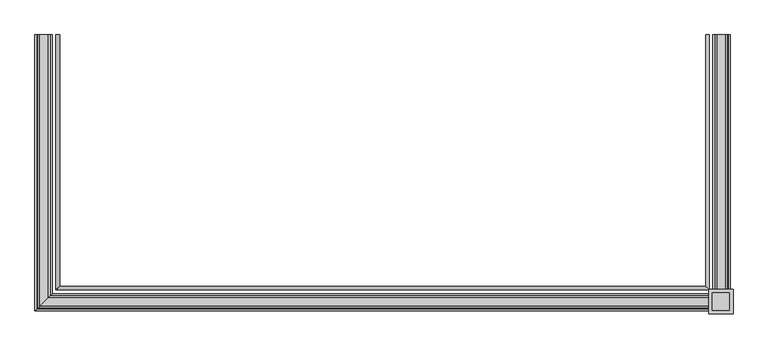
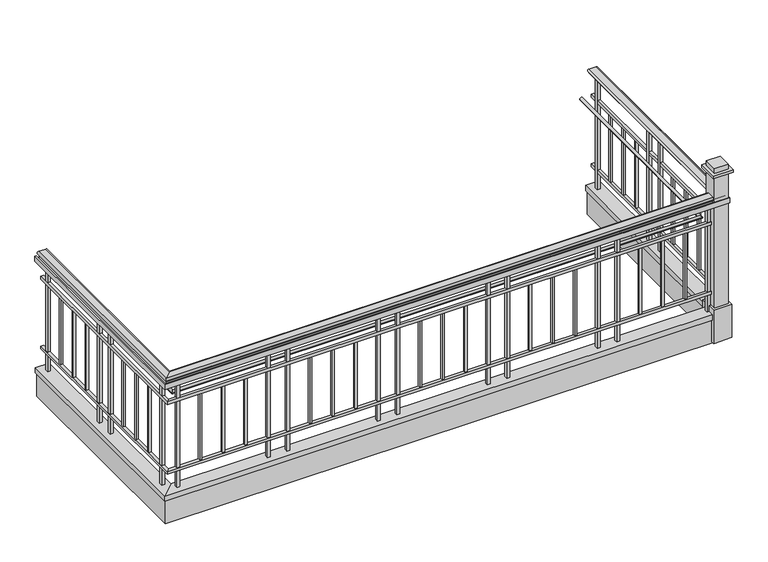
"""IFC4 building model written with IfcOpenShell, lengths in millimetres: railing geometry, Deco Type."""

from ifc_helpers import new_model, si_unit, frame, origin, place, context, project, spatial, polyline, circle_curve, ellipse_curve, outline, extrude, faceted_brep, source, transform, mapped, element, save
from ifc_brep_helpers import plane_surface, cylinder_surface, advanced_brep


def railing_9fa31439(model_context):
    return source(origin(), model_context, "Body", "SolidModel", [
        advanced_brep(
        [(-11325.7002872, -7864.1661799, 1098.55), (-11325.7002872, -7864.1661799, 1076.3248415), (-11325.7002872, -7864.1661799, 1066.8), (-11389.0500398, -7864.1661799, 1066.8), (-11389.0500398, -7864.1661799, 1076.261629), (-11389.0500398, -7864.1661799, 1098.55), (-11325.7002872, -9707.4039273, 1098.55), (-11325.7002872, -9707.4039273, 1076.3248415), (-11325.7002872, -9707.4039273, 1066.8), (-11389.0500398, -9770.7536799, 1066.8), (-11389.0500398, -9770.7536799, 1076.261629), (-11389.0500398, -9770.7536799, 1098.55), (-6640.6872924, -9707.4039273, 1098.55), (-6640.6872924, -9707.4039273, 1076.3248415), (-6640.6872924, -9707.4039273, 1066.8), (-6577.3375398, -9770.7536799, 1066.8), (-6577.3375398, -9770.7536799, 1076.261629), (-6577.3375398, -9770.7536799, 1098.55), (-6640.6872924, -7864.1661799, 1098.55), (-6577.3375398, -7864.1661799, 1098.55), (-6577.3375398, -7864.1661799, 1076.261629), (-6577.3375398, -7864.1661799, 1066.8), (-6640.6872924, -7864.1661799, 1066.8), (-6640.6872924, -7864.1661799, 1076.3248415)],
        [
            (0, 1, circle_curve(frame((-11325.7002872, -7864.1661799, 1087.4374207), z_axis=(0.0, 1.0, 0.0), x_axis=(-1.0, 0.0, 0.0)), 11.1125793)),
            (1, 2),
            (2, 3),
            (3, 4),
            (4, 5, circle_curve(frame((-11389.0500398, -7864.1661799, 1087.4058145), z_axis=(0.0, 1.0, 0.0), x_axis=(-1.0, 0.0, 0.0)), 11.1441855)),
            (5, 0),
            (0, 6),
            (6, 7, ellipse_curve(frame((-11325.7002872, -9707.4039273, 1087.4374207), z_axis=(-0.7071067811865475, 0.7071067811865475, 0.0), x_axis=(0.7071067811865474, 0.7071067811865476, 0.0)), 15.7155603, 11.1125793)),
            (7, 1),
            (7, 8),
            (8, 2),
            (8, 9),
            (9, 3),
            (9, 10),
            (10, 4),
            (10, 11, ellipse_curve(frame((-11389.0500398, -9770.7536799, 1087.4058145), z_axis=(-0.7071067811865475, 0.7071067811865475, 0.0), x_axis=(0.7071067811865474, 0.7071067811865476, 0.0)), 15.7602583, 11.1441855)),
            (11, 5),
            (11, 6),
            (6, 12),
            (12, 13, ellipse_curve(frame((-6640.6872924, -9707.4039273, 1087.4374207), z_axis=(-0.7071067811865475, -0.7071067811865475, 0.0), x_axis=(-0.7071067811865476, 0.7071067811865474, 0.0)), 15.7155603, 11.1125793)),
            (13, 7),
            (13, 14),
            (14, 8),
            (14, 15),
            (15, 9),
            (15, 16),
            (16, 10),
            (16, 17, ellipse_curve(frame((-6577.3375398, -9770.7536799, 1087.4058145), z_axis=(-0.7071067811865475, -0.7071067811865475, 0.0), x_axis=(-0.7071067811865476, 0.7071067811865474, 0.0)), 15.7602583, 11.1441855)),
            (17, 11),
            (17, 12),
            (18, 19),
            (19, 20, circle_curve(frame((-6577.3375398, -7864.1661799, 1087.4058145), z_axis=(0.0, 1.0, 0.0), x_axis=(1.0, 0.0, 0.0)), 11.1441855)),
            (20, 21),
            (21, 22),
            (22, 23),
            (23, 18, circle_curve(frame((-6640.6872924, -7864.1661799, 1087.4374207), z_axis=(0.0, 1.0, 0.0), x_axis=(1.0, 0.0, 0.0)), 11.1125793)),
            (12, 18),
            (23, 13),
            (22, 14),
            (21, 15),
            (20, 16),
            (19, 17),
        ],
        [
            plane_surface(frame((-11357.3000398, -7864.1661799, 1066.8), z_axis=(0.0, 1.0, 0.0), x_axis=(0.0, 0.0, -1.0))),
            cylinder_surface(frame((-11325.7002872, -7864.1661799, 1087.4374207), z_axis=(0.0, 1.0, 0.0), x_axis=(-1.0, 0.0, 0.0)), 11.1125793),
            plane_surface(frame((-11325.7002872, -7864.1661799, 1076.3248415), z_axis=(1.0, 0.0, 0.0), x_axis=(0.0, -1.0, 0.0))),
            plane_surface(frame((-11325.7002872, -7864.1661799, 1066.8), z_axis=(0.0, 0.0, -1.0), x_axis=(0.0, -1.0, 0.0))),
            plane_surface(frame((-11389.0500398, -7864.1661799, 1066.8), z_axis=(-1.0, 0.0, 0.0), x_axis=(0.0, -1.0, 0.0))),
            cylinder_surface(frame((-11389.0500398, -7864.1661799, 1087.4058145), z_axis=(0.0, 1.0, 0.0), x_axis=(-1.0, 0.0, 0.0)), 11.1441855),
            plane_surface(frame((-11389.0500398, -7864.1661799, 1098.55), z_axis=(0.0, 0.0, 1.0), x_axis=(0.0, -1.0, 0.0))),
            cylinder_surface(frame((-11357.3000398, -9707.4039273, 1087.4374207), z_axis=(-1.0, 0.0, 0.0), x_axis=(0.0, -1.0, 0.0)), 11.1125793),
            plane_surface(frame((-11325.7002872, -9707.4039273, 1076.3248415), z_axis=(0.0, 1.0, 0.0), x_axis=(1.0, 0.0, 0.0))),
            plane_surface(frame((-11325.7002872, -9707.4039273, 1066.8), z_axis=(0.0, 0.0, -1.0), x_axis=(1.0, 0.0, 0.0))),
            plane_surface(frame((-11389.0500398, -9770.7536799, 1066.8), z_axis=(0.0, -1.0, 0.0), x_axis=(1.0, 0.0, 0.0))),
            cylinder_surface(frame((-11357.3000398, -9770.7536799, 1087.4058145), z_axis=(-1.0, 0.0, 0.0), x_axis=(0.0, -1.0, 0.0)), 11.1441855),
            plane_surface(frame((-11389.0500398, -9770.7536799, 1098.55), z_axis=(0.0, 0.0, 1.0), x_axis=(1.0, 0.0, 0.0))),
            plane_surface(frame((-6609.0875398, -7864.1661799, 1066.8), z_axis=(0.0, 1.0, 0.0), x_axis=(0.0, 0.0, 1.0))),
            cylinder_surface(frame((-6640.6872924, -9739.0036799, 1087.4374207), z_axis=(0.0, -1.0, 0.0), x_axis=(1.0, 0.0, 0.0)), 11.1125793),
            plane_surface(frame((-6640.6872924, -9707.4039273, 1076.3248415), z_axis=(-1.0, 0.0, 0.0), x_axis=(0.0, 1.0, 0.0))),
            plane_surface(frame((-6640.6872924, -9707.4039273, 1066.8), z_axis=(0.0, 0.0, -1.0), x_axis=(0.0, 1.0, 0.0))),
            plane_surface(frame((-6577.3375398, -9770.7536799, 1066.8), z_axis=(1.0, 0.0, 0.0), x_axis=(0.0, 1.0, 0.0))),
            cylinder_surface(frame((-6577.3375398, -9739.0036799, 1087.4058145), z_axis=(0.0, -1.0, 0.0), x_axis=(1.0, 0.0, 0.0)), 11.1441855),
            plane_surface(frame((-6577.3375398, -9770.7536799, 1098.55), z_axis=(0.0, 0.0, 1.0), x_axis=(0.0, 1.0, 0.0))),
        ],
        [
            (0, [[1, 2, 3, 4, 5, 6]]),
            (1, [[-1, 7, 8, 9]]),
            (2, [[-2, -9, 10, 11]]),
            (3, [[-3, -11, 12, 13]]),
            (4, [[-4, -13, 14, 15]]),
            (5, [[-5, -15, 16, 17]]),
            (6, [[-6, -17, 18, -7]]),
            (7, [[-8, 19, 20, 21]]),
            (8, [[-10, -21, 22, 23]]),
            (9, [[-12, -23, 24, 25]]),
            (10, [[-14, -25, 26, 27]]),
            (11, [[-16, -27, 28, 29]]),
            (12, [[-18, -29, 30, -19]]),
            (13, [[31, 32, 33, 34, 35, 36]]),
            (14, [[-20, 37, -36, 38]]),
            (15, [[-22, -38, -35, 39]]),
            (16, [[-24, -39, -34, 40]]),
            (17, [[-26, -40, -33, 41]]),
            (18, [[-28, -41, -32, 42]]),
            (19, [[-30, -42, -31, -37]]),
        ],
    ),
        faceted_brep([(-11382.7751635, -7864.1661799, 1066.8), (-11370.0751635, -7864.1661799, 1066.8), (-11370.0751635, -7864.1661799, 1022.35), (-11382.7751635, -7864.1661799, 1022.35), (-11382.7751635, -9764.4788036, 1066.8), (-11370.0751635, -9751.7788036, 1066.8), (-11370.0751635, -9751.7788036, 1022.35), (-11382.7751635, -9764.4788036, 1022.35), (-6583.6124161, -9764.4788036, 1066.8), (-6596.3124161, -9751.7788036, 1066.8), (-6596.3124161, -9751.7788036, 1022.35), (-6583.6124161, -9764.4788036, 1022.35), (-6583.6124161, -7864.1661799, 1066.8), (-6583.6124161, -7864.1661799, 1022.35), (-6596.3124161, -7864.1661799, 1022.35), (-6596.3124161, -7864.1661799, 1066.8)], [[[0, 1, 2, 3]], [[1, 0, 4, 5]], [[2, 1, 5, 6]], [[3, 2, 6, 7]], [[0, 3, 7, 4]], [[5, 4, 8, 9]], [[6, 5, 9, 10]], [[7, 6, 10, 11]], [[4, 7, 11, 8]], [[12, 13, 14, 15]], [[9, 8, 12, 15]], [[10, 9, 15, 14]], [[11, 10, 14, 13]], [[8, 11, 13, 12]]]),
        faceted_brep([(-11420.8751635, -7864.1661799, 1066.8), (-11408.1751635, -7864.1661799, 1066.8), (-11408.1751635, -7864.1661799, 1022.35), (-11420.8751635, -7864.1661799, 1022.35), (-11420.8751635, -9802.5788036, 1066.8), (-11408.1751635, -9789.8788036, 1066.8), (-11408.1751635, -9789.8788036, 1022.35), (-11420.8751635, -9802.5788036, 1022.35), (-6545.5124161, -9802.5788036, 1066.8), (-6558.2124161, -9789.8788036, 1066.8), (-6558.2124161, -9789.8788036, 1022.35), (-6545.5124161, -9802.5788036, 1022.35), (-6545.5124161, -7864.1661799, 1066.8), (-6545.5124161, -7864.1661799, 1022.35), (-6558.2124161, -7864.1661799, 1022.35), (-6558.2124161, -7864.1661799, 1066.8)], [[[0, 1, 2, 3]], [[1, 0, 4, 5]], [[2, 1, 5, 6]], [[3, 2, 6, 7]], [[0, 3, 7, 4]], [[5, 4, 8, 9]], [[6, 5, 9, 10]], [[7, 6, 10, 11]], [[4, 7, 11, 8]], [[12, 13, 14, 15]], [[9, 8, 12, 15]], [[10, 9, 15, 14]], [[11, 10, 14, 13]], [[8, 11, 13, 12]]]),
        faceted_brep([(-11370.0000398, -7864.1661799, 863.6), (-11344.6000398, -7864.1661799, 863.6), (-11344.6000398, -7864.1661799, 838.2), (-11370.0000398, -7864.1661799, 838.2), (-11370.0000398, -9751.7036799, 863.6), (-11344.6000398, -9726.3036799, 863.6), (-11344.6000398, -9726.3036799, 838.2), (-11370.0000398, -9751.7036799, 838.2), (-6596.3875398, -9751.7036799, 863.6), (-6621.7875398, -9726.3036799, 863.6), (-6621.7875398, -9726.3036799, 838.2), (-6596.3875398, -9751.7036799, 838.2), (-6596.3875398, -7864.1661799, 863.6), (-6596.3875398, -7864.1661799, 838.2), (-6621.7875398, -7864.1661799, 838.2), (-6621.7875398, -7864.1661799, 863.6)], [[[0, 1, 2, 3]], [[1, 0, 4, 5]], [[2, 1, 5, 6]], [[3, 2, 6, 7]], [[0, 3, 7, 4]], [[5, 4, 8, 9]], [[6, 5, 9, 10]], [[7, 6, 10, 11]], [[4, 7, 11, 8]], [[12, 13, 14, 15]], [[9, 8, 12, 15]], [[10, 9, 15, 14]], [[11, 10, 14, 13]], [[8, 11, 13, 12]]]),
        advanced_brep(
        [(-11247.7625398, -7864.1661799, 850.9), (-11273.1625398, -7864.1661799, 850.9), (-11247.7625398, -9629.4661799, 850.9), (-11273.1625398, -9654.8661799, 850.9), (-6718.6250398, -9629.4661799, 850.9), (-6693.2250398, -9654.8661799, 850.9), (-6718.6250398, -7864.1661799, 850.9), (-6693.2250398, -7864.1661799, 850.9)],
        [
            (0, 1, circle_curve(frame((-11260.4625398, -7864.1661799, 850.9), z_axis=(0.0, 1.0, 0.0), x_axis=(-1.0, 0.0, 0.0)), 12.7)),
            (1, 0, circle_curve(frame((-11260.4625398, -7864.1661799, 850.9), z_axis=(0.0, 1.0, 0.0), x_axis=(-1.0, 0.0, 0.0)), 12.7)),
            (0, 2),
            (2, 3, ellipse_curve(frame((-11260.4625398, -9642.1661799, 850.9), z_axis=(-0.7071067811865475, 0.7071067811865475, 0.0), x_axis=(0.7071067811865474, 0.7071067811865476, 0.0)), 17.9605122, 12.7)),
            (3, 1),
            (3, 2, ellipse_curve(frame((-11260.4625398, -9642.1661799, 850.9), z_axis=(-0.7071067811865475, 0.7071067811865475, 0.0), x_axis=(0.7071067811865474, 0.7071067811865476, 0.0)), 17.9605122, 12.7)),
            (2, 4),
            (4, 5, ellipse_curve(frame((-6705.9250398, -9642.1661799, 850.9), z_axis=(-0.7071067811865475, -0.7071067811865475, 0.0), x_axis=(-0.7071067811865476, 0.7071067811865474, 0.0)), 17.9605122, 12.7)),
            (5, 3),
            (5, 4, ellipse_curve(frame((-6705.9250398, -9642.1661799, 850.9), z_axis=(-0.7071067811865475, -0.7071067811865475, 0.0), x_axis=(-0.7071067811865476, 0.7071067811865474, 0.0)), 17.9605122, 12.7)),
            (6, 7, circle_curve(frame((-6705.9250398, -7864.1661799, 850.9), z_axis=(0.0, 1.0, 0.0), x_axis=(1.0, 0.0, 0.0)), 12.7)),
            (7, 6, circle_curve(frame((-6705.9250398, -7864.1661799, 850.9), z_axis=(0.0, 1.0, 0.0), x_axis=(1.0, 0.0, 0.0)), 12.7)),
            (4, 6),
            (7, 5),
        ],
        [
            plane_surface(frame((-11260.4625398, -7864.1661799, 850.9), z_axis=(0.0, 1.0, 0.0), x_axis=(0.0, 0.0, -1.0))),
            cylinder_surface(frame((-11260.4625398, -7864.1661799, 850.9), z_axis=(0.0, 1.0, 0.0), x_axis=(-1.0, 0.0, 0.0)), 12.7),
            cylinder_surface(frame((-11260.4625398, -9642.1661799, 850.9), z_axis=(-1.0, 0.0, 0.0), x_axis=(0.0, -1.0, 0.0)), 12.7),
            plane_surface(frame((-6705.9250398, -7864.1661799, 850.9), z_axis=(0.0, 1.0, 0.0), x_axis=(0.0, 0.0, 1.0))),
            cylinder_surface(frame((-6705.9250398, -9642.1661799, 850.9), z_axis=(0.0, -1.0, 0.0), x_axis=(1.0, 0.0, 0.0)), 12.7),
        ],
        [
            (0, [[1, 2]]),
            (1, [[-1, 3, 4, 5]]),
            (1, [[-2, -5, 6, -3]]),
            (2, [[-4, 7, 8, 9]]),
            (2, [[-6, -9, 10, -7]]),
            (3, [[11, 12]]),
            (4, [[-8, 13, -12, 14]]),
            (4, [[-10, -14, -11, -13]]),
        ],
    ),
        faceted_brep([(-11370.0000398, -7864.1661799, 228.6), (-11344.6000398, -7864.1661799, 228.6), (-11344.6000398, -7864.1661799, 203.2), (-11370.0000398, -7864.1661799, 203.2), (-11370.0000398, -9751.7036799, 228.6), (-11344.6000398, -9726.3036799, 228.6), (-11344.6000398, -9726.3036799, 203.2), (-11370.0000398, -9751.7036799, 203.2), (-6596.3875398, -9751.7036799, 228.6), (-6621.7875398, -9726.3036799, 228.6), (-6621.7875398, -9726.3036799, 203.2), (-6596.3875398, -9751.7036799, 203.2), (-6596.3875398, -7864.1661799, 228.6), (-6596.3875398, -7864.1661799, 203.2), (-6621.7875398, -7864.1661799, 203.2), (-6621.7875398, -7864.1661799, 228.6)], [[[0, 1, 2, 3]], [[1, 0, 4, 5]], [[2, 1, 5, 6]], [[3, 2, 6, 7]], [[0, 3, 7, 4]], [[5, 4, 8, 9]], [[6, 5, 9, 10]], [[7, 6, 10, 11]], [[4, 7, 11, 8]], [[12, 13, 14, 15]], [[9, 8, 12, 15]], [[10, 9, 15, 14]], [[11, 10, 14, 13]], [[8, 11, 13, 12]]]),
        faceted_brep([(-11298.6376635, -7864.1661799, 49.0362864), (-11298.6376635, -7864.1661799, 0.0), (-11311.3376635, -7864.1661799, 0.0), (-11311.3376635, -7864.1661799, 36.3362864), (-11403.4126635, -7864.1661799, 36.3362864), (-11403.4126635, -7864.1661799, 0.0), (-11416.1126635, -7864.1661799, 0.0), (-11416.1126635, -7864.1661799, 49.0362864), (-11298.6376635, -9680.3413036, 49.0362864), (-11298.6376635, -9680.3413036, 0.0), (-11311.3376635, -9693.0413036, 0.0), (-11311.3376635, -9693.0413036, 36.3362864), (-11403.4126635, -9785.1163036, 36.3362864), (-11403.4126635, -9785.1163036, 0.0), (-11416.1126635, -9797.8163036, 0.0), (-11416.1126635, -9797.8163036, 49.0362864), (-6667.7499161, -9680.3413036, 49.0362864), (-6667.7499161, -9680.3413036, 0.0), (-6655.0499161, -9693.0413036, 0.0), (-6655.0499161, -9693.0413036, 36.3362864), (-6562.9749161, -9785.1163036, 36.3362864), (-6562.9749161, -9785.1163036, 0.0), (-6550.2749161, -9797.8163036, 0.0), (-6550.2749161, -9797.8163036, 49.0362864), (-6667.7499161, -7864.1661799, 49.0362864), (-6550.2749161, -7864.1661799, 49.0362864), (-6550.2749161, -7864.1661799, 0.0), (-6562.9749161, -7864.1661799, 0.0), (-6562.9749161, -7864.1661799, 36.3362864), (-6655.0499161, -7864.1661799, 36.3362864), (-6655.0499161, -7864.1661799, 0.0), (-6667.7499161, -7864.1661799, 0.0)], [[[0, 1, 2, 3, 4, 5, 6, 7]], [[1, 0, 8, 9]], [[2, 1, 9, 10]], [[3, 2, 10, 11]], [[4, 3, 11, 12]], [[5, 4, 12, 13]], [[6, 5, 13, 14]], [[7, 6, 14, 15]], [[0, 7, 15, 8]], [[9, 8, 16, 17]], [[10, 9, 17, 18]], [[11, 10, 18, 19]], [[12, 11, 19, 20]], [[13, 12, 20, 21]], [[14, 13, 21, 22]], [[15, 14, 22, 23]], [[8, 15, 23, 16]], [[24, 25, 26, 27, 28, 29, 30, 31]], [[17, 16, 24, 31]], [[18, 17, 31, 30]], [[19, 18, 30, 29]], [[20, 19, 29, 28]], [[21, 20, 28, 27]], [[22, 21, 27, 26]], [[23, 22, 26, 25]], [[16, 23, 25, 24]]]),
        faceted_brep([(-11311.3376635, -7864.1661799, 36.3362864), (-11311.3376635, -7864.1661799, -217.6637136), (-11403.4126635, -7864.1661799, -217.6637136), (-11403.4126635, -7864.1661799, 36.3362864), (-11311.3376635, -9693.0413036, 36.3362864), (-11311.3376635, -9693.0413036, -217.6637136), (-11403.4126635, -9785.1163036, -217.6637136), (-11403.4126635, -9785.1163036, 36.3362864), (-6655.0499161, -9693.0413036, 36.3362864), (-6655.0499161, -9693.0413036, -217.6637136), (-6562.9749161, -9785.1163036, -217.6637136), (-6562.9749161, -9785.1163036, 36.3362864), (-6655.0499161, -7864.1661799, 36.3362864), (-6562.9749161, -7864.1661799, 36.3362864), (-6562.9749161, -7864.1661799, -217.6637136), (-6655.0499161, -7864.1661799, -217.6637136)], [[[0, 1, 2, 3]], [[1, 0, 4, 5]], [[2, 1, 5, 6]], [[3, 2, 6, 7]], [[0, 3, 7, 4]], [[5, 4, 8, 9]], [[6, 5, 9, 10]], [[7, 6, 10, 11]], [[4, 7, 11, 8]], [[12, 13, 14, 15]], [[9, 8, 12, 15]], [[10, 9, 15, 14]], [[11, 10, 14, 13]], [[8, 11, 13, 12]]]),
        extrude(outline(polyline([(-6599.1656648, -7959.4570347), (-6624.5656648, -7959.4570347), (-6624.5656648, -7934.0570347), (-6599.1656648, -7934.0570347), (-6599.1656648, -7959.4570347)])), frame((0.0, 0.0, 49.0362864), z_axis=(0.0, 0.0, 1.0), x_axis=(1.0, 0.0, 0.0)), (0.0, 0.0, 1.0), 1017.7637136),
        extrude(outline(polyline([(-6602.3406648, -8148.9940292), (-6621.3906648, -8148.9940292), (-6621.3906648, -8129.9440292), (-6602.3406648, -8129.9440292), (-6602.3406648, -8148.9940292)])), frame((0.0, 0.0, 228.6), z_axis=(0.0, 0.0, 1.0), x_axis=(1.0, 0.0, 0.0)), (0.0, 0.0, 1.0), 609.6),
        extrude(outline(polyline([(-6602.3406648, -8341.7060237), (-6621.3906648, -8341.7060237), (-6621.3906648, -8322.6560237), (-6602.3406648, -8322.6560237), (-6602.3406648, -8341.7060237)])), frame((0.0, 0.0, 228.6), z_axis=(0.0, 0.0, 1.0), x_axis=(1.0, 0.0, 0.0)), (0.0, 0.0, 1.0), 609.6),
        extrude(outline(polyline([(-6602.3406648, -8534.4180182), (-6621.3906648, -8534.4180182), (-6621.3906648, -8515.3680182), (-6602.3406648, -8515.3680182), (-6602.3406648, -8534.4180182)])), frame((0.0, 0.0, 228.6), z_axis=(0.0, 0.0, 1.0), x_axis=(1.0, 0.0, 0.0)), (0.0, 0.0, 1.0), 609.6),
        extrude(outline(polyline([(-6599.1656648, -8730.3050126), (-6624.5656648, -8730.3050126), (-6624.5656648, -8704.9050126), (-6599.1656648, -8704.9050126), (-6599.1656648, -8730.3050126)])), frame((0.0, 0.0, 49.0362864), z_axis=(0.0, 0.0, 1.0), x_axis=(1.0, 0.0, 0.0)), (0.0, 0.0, 1.0), 1017.7637136),
        extrude(outline(polyline([(-6599.1656648, -8895.4867222), (-6624.5656648, -8895.4867222), (-6624.5656648, -8870.0867222), (-6599.1656648, -8870.0867222), (-6599.1656648, -8895.4867222)])), frame((0.0, 0.0, 49.0362864), z_axis=(0.0, 0.0, 1.0), x_axis=(1.0, 0.0, 0.0)), (0.0, 0.0, 1.0), 1017.7637136),
        extrude(outline(polyline([(-6602.3406648, -9085.0237167), (-6621.3906648, -9085.0237167), (-6621.3906648, -9065.9737167), (-6602.3406648, -9065.9737167), (-6602.3406648, -9085.0237167)])), frame((0.0, 0.0, 228.6), z_axis=(0.0, 0.0, 1.0), x_axis=(1.0, 0.0, 0.0)), (0.0, 0.0, 1.0), 609.6),
        extrude(outline(polyline([(-6602.3406648, -9277.7357112), (-6621.3906648, -9277.7357112), (-6621.3906648, -9258.6857112), (-6602.3406648, -9258.6857112), (-6602.3406648, -9277.7357112)])), frame((0.0, 0.0, 228.6), z_axis=(0.0, 0.0, 1.0), x_axis=(1.0, 0.0, 0.0)), (0.0, 0.0, 1.0), 609.6),
        extrude(outline(polyline([(-6602.3406648, -9470.4477057), (-6621.3906648, -9470.4477057), (-6621.3906648, -9451.3977057), (-6602.3406648, -9451.3977057), (-6602.3406648, -9470.4477057)])), frame((0.0, 0.0, 228.6), z_axis=(0.0, 0.0, 1.0), x_axis=(1.0, 0.0, 0.0)), (0.0, 0.0, 1.0), 609.6),
        extrude(outline(polyline([(-6599.1656648, -9666.3347001), (-6624.5656648, -9666.3347001), (-6624.5656648, -9640.9347001), (-6599.1656648, -9640.9347001), (-6599.1656648, -9666.3347001)])), frame((0.0, 0.0, 49.0362864), z_axis=(0.0, 0.0, 1.0), x_axis=(1.0, 0.0, 0.0)), (0.0, 0.0, 1.0), 1017.7637136),
        extrude(outline(polyline([(-6708.2595986, -9748.9255549), (-6708.2595986, -9723.5255549), (-6682.8595986, -9723.5255549), (-6682.8595986, -9748.9255549), (-6708.2595986, -9748.9255549)])), frame((0.0, 0.0, 49.0362864), z_axis=(0.0, 0.0, 1.0), x_axis=(1.0, 0.0, 0.0)), (0.0, 0.0, 1.0), 1017.7637136),
        extrude(outline(polyline([(-6900.3704442, -9745.7505549), (-6900.3704442, -9726.7005549), (-6881.3204442, -9726.7005549), (-6881.3204442, -9745.7505549), (-6900.3704442, -9745.7505549)])), frame((0.0, 0.0, 228.6), z_axis=(0.0, 0.0, 1.0), x_axis=(1.0, 0.0, 0.0)), (0.0, 0.0, 1.0), 609.6),
        extrude(outline(polyline([(-7095.6562898, -9745.7505549), (-7095.6562898, -9726.7005549), (-7076.6062898, -9726.7005549), (-7076.6062898, -9745.7505549), (-7095.6562898, -9745.7505549)])), frame((0.0, 0.0, 228.6), z_axis=(0.0, 0.0, 1.0), x_axis=(1.0, 0.0, 0.0)), (0.0, 0.0, 1.0), 609.6),
        extrude(outline(polyline([(-7290.9421354, -9745.7505549), (-7290.9421354, -9726.7005549), (-7271.8921354, -9726.7005549), (-7271.8921354, -9745.7505549), (-7290.9421354, -9745.7505549)])), frame((0.0, 0.0, 228.6), z_axis=(0.0, 0.0, 1.0), x_axis=(1.0, 0.0, 0.0)), (0.0, 0.0, 1.0), 609.6),
        extrude(outline(polyline([(-7489.402981, -9748.9255549), (-7489.402981, -9723.5255549), (-7464.002981, -9723.5255549), (-7464.002981, -9748.9255549), (-7489.402981, -9748.9255549)])), frame((0.0, 0.0, 49.0362864), z_axis=(0.0, 0.0, 1.0), x_axis=(1.0, 0.0, 0.0)), (0.0, 0.0, 1.0), 1017.7637136),
        extrude(outline(polyline([(-7656.7908486, -9748.9255549), (-7656.7908486, -9723.5255549), (-7631.3908486, -9723.5255549), (-7631.3908486, -9748.9255549), (-7656.7908486, -9748.9255549)])), frame((0.0, 0.0, 49.0362864), z_axis=(0.0, 0.0, 1.0), x_axis=(1.0, 0.0, 0.0)), (0.0, 0.0, 1.0), 1017.7637136),
        extrude(outline(polyline([(-7848.9016942, -9745.7505549), (-7848.9016942, -9726.7005549), (-7829.8516942, -9726.7005549), (-7829.8516942, -9745.7505549), (-7848.9016942, -9745.7505549)])), frame((0.0, 0.0, 228.6), z_axis=(0.0, 0.0, 1.0), x_axis=(1.0, 0.0, 0.0)), (0.0, 0.0, 1.0), 609.6),
        extrude(outline(polyline([(-8044.1875398, -9745.7505549), (-8044.1875398, -9726.7005549), (-8025.1375398, -9726.7005549), (-8025.1375398, -9745.7505549), (-8044.1875398, -9745.7505549)])), frame((0.0, 0.0, 228.6), z_axis=(0.0, 0.0, 1.0), x_axis=(1.0, 0.0, 0.0)), (0.0, 0.0, 1.0), 609.6),
        extrude(outline(polyline([(-8239.4733854, -9745.7505549), (-8239.4733854, -9726.7005549), (-8220.4233854, -9726.7005549), (-8220.4233854, -9745.7505549), (-8239.4733854, -9745.7505549)])), frame((0.0, 0.0, 228.6), z_axis=(0.0, 0.0, 1.0), x_axis=(1.0, 0.0, 0.0)), (0.0, 0.0, 1.0), 609.6),
        extrude(outline(polyline([(-8437.934231, -9748.9255549), (-8437.934231, -9723.5255549), (-8412.534231, -9723.5255549), (-8412.534231, -9748.9255549), (-8437.934231, -9748.9255549)])), frame((0.0, 0.0, 49.0362864), z_axis=(0.0, 0.0, 1.0), x_axis=(1.0, 0.0, 0.0)), (0.0, 0.0, 1.0), 1017.7637136),
        extrude(outline(polyline([(-8605.3220986, -9748.9255549), (-8605.3220986, -9723.5255549), (-8579.9220986, -9723.5255549), (-8579.9220986, -9748.9255549), (-8605.3220986, -9748.9255549)])), frame((0.0, 0.0, 49.0362864), z_axis=(0.0, 0.0, 1.0), x_axis=(1.0, 0.0, 0.0)), (0.0, 0.0, 1.0), 1017.7637136),
        extrude(outline(polyline([(-8797.4329442, -9745.7505549), (-8797.4329442, -9726.7005549), (-8778.3829442, -9726.7005549), (-8778.3829442, -9745.7505549), (-8797.4329442, -9745.7505549)])), frame((0.0, 0.0, 228.6), z_axis=(0.0, 0.0, 1.0), x_axis=(1.0, 0.0, 0.0)), (0.0, 0.0, 1.0), 609.6),
        extrude(outline(polyline([(-8992.7187898, -9745.7505549), (-8992.7187898, -9726.7005549), (-8973.6687898, -9726.7005549), (-8973.6687898, -9745.7505549), (-8992.7187898, -9745.7505549)])), frame((0.0, 0.0, 228.6), z_axis=(0.0, 0.0, 1.0), x_axis=(1.0, 0.0, 0.0)), (0.0, 0.0, 1.0), 609.6),
        extrude(outline(polyline([(-9188.0046354, -9745.7505549), (-9188.0046354, -9726.7005549), (-9168.9546354, -9726.7005549), (-9168.9546354, -9745.7505549), (-9188.0046354, -9745.7505549)])), frame((0.0, 0.0, 228.6), z_axis=(0.0, 0.0, 1.0), x_axis=(1.0, 0.0, 0.0)), (0.0, 0.0, 1.0), 609.6),
        extrude(outline(polyline([(-9386.465481, -9748.9255549), (-9386.465481, -9723.5255549), (-9361.065481, -9723.5255549), (-9361.065481, -9748.9255549), (-9386.465481, -9748.9255549)])), frame((0.0, 0.0, 49.0362864), z_axis=(0.0, 0.0, 1.0), x_axis=(1.0, 0.0, 0.0)), (0.0, 0.0, 1.0), 1017.7637136),
        extrude(outline(polyline([(-9553.8533486, -9748.9255549), (-9553.8533486, -9723.5255549), (-9528.4533486, -9723.5255549), (-9528.4533486, -9748.9255549), (-9553.8533486, -9748.9255549)])), frame((0.0, 0.0, 49.0362864), z_axis=(0.0, 0.0, 1.0), x_axis=(1.0, 0.0, 0.0)), (0.0, 0.0, 1.0), 1017.7637136),
        extrude(outline(polyline([(-9745.9641942, -9745.7505549), (-9745.9641942, -9726.7005549), (-9726.9141942, -9726.7005549), (-9726.9141942, -9745.7505549), (-9745.9641942, -9745.7505549)])), frame((0.0, 0.0, 228.6), z_axis=(0.0, 0.0, 1.0), x_axis=(1.0, 0.0, 0.0)), (0.0, 0.0, 1.0), 609.6),
        extrude(outline(polyline([(-9941.2500398, -9745.7505549), (-9941.2500398, -9726.7005549), (-9922.2000398, -9726.7005549), (-9922.2000398, -9745.7505549), (-9941.2500398, -9745.7505549)])), frame((0.0, 0.0, 228.6), z_axis=(0.0, 0.0, 1.0), x_axis=(1.0, 0.0, 0.0)), (0.0, 0.0, 1.0), 609.6),
        extrude(outline(polyline([(-10136.5358854, -9745.7505549), (-10136.5358854, -9726.7005549), (-10117.4858854, -9726.7005549), (-10117.4858854, -9745.7505549), (-10136.5358854, -9745.7505549)])), frame((0.0, 0.0, 228.6), z_axis=(0.0, 0.0, 1.0), x_axis=(1.0, 0.0, 0.0)), (0.0, 0.0, 1.0), 609.6),
        extrude(outline(polyline([(-10334.996731, -9748.9255549), (-10334.996731, -9723.5255549), (-10309.596731, -9723.5255549), (-10309.596731, -9748.9255549), (-10334.996731, -9748.9255549)])), frame((0.0, 0.0, 49.0362864), z_axis=(0.0, 0.0, 1.0), x_axis=(1.0, 0.0, 0.0)), (0.0, 0.0, 1.0), 1017.7637136),
        extrude(outline(polyline([(-10502.3845986, -9748.9255549), (-10502.3845986, -9723.5255549), (-10476.9845986, -9723.5255549), (-10476.9845986, -9748.9255549), (-10502.3845986, -9748.9255549)])), frame((0.0, 0.0, 49.0362864), z_axis=(0.0, 0.0, 1.0), x_axis=(1.0, 0.0, 0.0)), (0.0, 0.0, 1.0), 1017.7637136),
        extrude(outline(polyline([(-10694.4954442, -9745.7505549), (-10694.4954442, -9726.7005549), (-10675.4454442, -9726.7005549), (-10675.4454442, -9745.7505549), (-10694.4954442, -9745.7505549)])), frame((0.0, 0.0, 228.6), z_axis=(0.0, 0.0, 1.0), x_axis=(1.0, 0.0, 0.0)), (0.0, 0.0, 1.0), 609.6),
        extrude(outline(polyline([(-10889.7812898, -9745.7505549), (-10889.7812898, -9726.7005549), (-10870.7312898, -9726.7005549), (-10870.7312898, -9745.7505549), (-10889.7812898, -9745.7505549)])), frame((0.0, 0.0, 228.6), z_axis=(0.0, 0.0, 1.0), x_axis=(1.0, 0.0, 0.0)), (0.0, 0.0, 1.0), 609.6),
        extrude(outline(polyline([(-11085.0671354, -9745.7505549), (-11085.0671354, -9726.7005549), (-11066.0171354, -9726.7005549), (-11066.0171354, -9745.7505549), (-11085.0671354, -9745.7505549)])), frame((0.0, 0.0, 228.6), z_axis=(0.0, 0.0, 1.0), x_axis=(1.0, 0.0, 0.0)), (0.0, 0.0, 1.0), 609.6),
        extrude(outline(polyline([(-11283.527981, -9748.9255549), (-11283.527981, -9723.5255549), (-11258.127981, -9723.5255549), (-11258.127981, -9748.9255549), (-11283.527981, -9748.9255549)])), frame((0.0, 0.0, 49.0362864), z_axis=(0.0, 0.0, 1.0), x_axis=(1.0, 0.0, 0.0)), (0.0, 0.0, 1.0), 1017.7637136),
        extrude(outline(polyline([(-11367.2219148, -9640.9347001), (-11341.8219148, -9640.9347001), (-11341.8219148, -9666.3347001), (-11367.2219148, -9666.3347001), (-11367.2219148, -9640.9347001)])), frame((0.0, 0.0, 49.0362864), z_axis=(0.0, 0.0, 1.0), x_axis=(1.0, 0.0, 0.0)), (0.0, 0.0, 1.0), 1017.7637136),
        extrude(outline(polyline([(-11364.0469148, -9451.3977057), (-11344.9969148, -9451.3977057), (-11344.9969148, -9470.4477057), (-11364.0469148, -9470.4477057), (-11364.0469148, -9451.3977057)])), frame((0.0, 0.0, 228.6), z_axis=(0.0, 0.0, 1.0), x_axis=(1.0, 0.0, 0.0)), (0.0, 0.0, 1.0), 609.6),
        extrude(outline(polyline([(-11364.0469148, -9258.6857112), (-11344.9969148, -9258.6857112), (-11344.9969148, -9277.7357112), (-11364.0469148, -9277.7357112), (-11364.0469148, -9258.6857112)])), frame((0.0, 0.0, 228.6), z_axis=(0.0, 0.0, 1.0), x_axis=(1.0, 0.0, 0.0)), (0.0, 0.0, 1.0), 609.6),
        extrude(outline(polyline([(-11364.0469148, -9065.9737167), (-11344.9969148, -9065.9737167), (-11344.9969148, -9085.0237167), (-11364.0469148, -9085.0237167), (-11364.0469148, -9065.9737167)])), frame((0.0, 0.0, 228.6), z_axis=(0.0, 0.0, 1.0), x_axis=(1.0, 0.0, 0.0)), (0.0, 0.0, 1.0), 609.6),
        extrude(outline(polyline([(-11367.2219148, -8870.0867222), (-11341.8219148, -8870.0867222), (-11341.8219148, -8895.4867222), (-11367.2219148, -8895.4867222), (-11367.2219148, -8870.0867222)])), frame((0.0, 0.0, 49.0362864), z_axis=(0.0, 0.0, 1.0), x_axis=(1.0, 0.0, 0.0)), (0.0, 0.0, 1.0), 1017.7637136),
        extrude(outline(polyline([(-11367.2219148, -8704.9050126), (-11341.8219148, -8704.9050126), (-11341.8219148, -8730.3050126), (-11367.2219148, -8730.3050126), (-11367.2219148, -8704.9050126)])), frame((0.0, 0.0, 49.0362864), z_axis=(0.0, 0.0, 1.0), x_axis=(1.0, 0.0, 0.0)), (0.0, 0.0, 1.0), 1017.7637136),
        extrude(outline(polyline([(-11364.0469148, -8515.3680182), (-11344.9969148, -8515.3680182), (-11344.9969148, -8534.4180182), (-11364.0469148, -8534.4180182), (-11364.0469148, -8515.3680182)])), frame((0.0, 0.0, 228.6), z_axis=(0.0, 0.0, 1.0), x_axis=(1.0, 0.0, 0.0)), (0.0, 0.0, 1.0), 609.6),
        extrude(outline(polyline([(-11364.0469148, -8322.6560237), (-11344.9969148, -8322.6560237), (-11344.9969148, -8341.7060237), (-11364.0469148, -8341.7060237), (-11364.0469148, -8322.6560237)])), frame((0.0, 0.0, 228.6), z_axis=(0.0, 0.0, 1.0), x_axis=(1.0, 0.0, 0.0)), (0.0, 0.0, 1.0), 609.6),
        extrude(outline(polyline([(-11364.0469148, -8129.9440292), (-11344.9969148, -8129.9440292), (-11344.9969148, -8148.9940292), (-11364.0469148, -8148.9940292), (-11364.0469148, -8129.9440292)])), frame((0.0, 0.0, 228.6), z_axis=(0.0, 0.0, 1.0), x_axis=(1.0, 0.0, 0.0)), (0.0, 0.0, 1.0), 609.6),
        extrude(outline(polyline([(-11367.2219148, -7934.0570347), (-11341.8219148, -7934.0570347), (-11341.8219148, -7959.4570347), (-11367.2219148, -7959.4570347), (-11367.2219148, -7934.0570347)])), frame((0.0, 0.0, 49.0362864), z_axis=(0.0, 0.0, 1.0), x_axis=(1.0, 0.0, 0.0)), (0.0, 0.0, 1.0), 1017.7637136),
        extrude(outline(polyline([(-6691.2406648, -9656.8505549), (-6532.4906648, -9656.8505549), (-6532.4906648, -9815.6005549), (-6691.2406648, -9815.6005549), (-6691.2406648, -9656.8505549)])), frame((0.0, 0.0, -203.2), z_axis=(0.0, 0.0, 1.0), x_axis=(1.0, 0.0, 0.0)), (0.0, 0.0, 1.0), 304.8),
        extrude(outline(polyline([(-6672.1906648, -9675.9005549), (-6551.5406648, -9675.9005549), (-6551.5406648, -9796.5505549), (-6672.1906648, -9796.5505549), (-6672.1906648, -9675.9005549)])), frame((0.0, 0.0, 101.6), z_axis=(0.0, 0.0, 1.0), x_axis=(1.0, 0.0, 0.0)), (0.0, 0.0, 1.0), 1270.0),
        extrude(outline(polyline([(-6697.5906648, -9821.9505549), (-6697.5906648, -9650.5005549), (-6526.1406648, -9650.5005549), (-6526.1406648, -9821.9505549), (-6697.5906648, -9821.9505549)]), holes=[polyline([(-6551.5406648, -9796.5505549), (-6551.5406648, -9675.9005549), (-6672.1906648, -9675.9005549), (-6672.1906648, -9796.5505549), (-6551.5406648, -9796.5505549)])]), frame((0.0, 0.0, 1304.925), z_axis=(0.0, 0.0, 1.0), x_axis=(1.0, 0.0, 0.0)), (0.0, 0.0, 1.0), 25.4),
    ])


if __name__ == "__main__":
    model = new_model("IFC4")
    model_context = context("Model", 3, world=origin())
    ifc_project = project(units=[si_unit("LENGTHUNIT", "METRE", prefix="MILLI")], contexts=[model_context])
    site = spatial("IfcSite", under=ifc_project)
    building = spatial("IfcBuilding", under=site)
    placement = place(None, origin())
    railing_shape = railing_9fa31439(model_context)
    element("IfcRailing", 1, ObjectType="Deco Type", at=placement, inside=building, context=model_context, shape_type="MappedRepresentation", body=[
        mapped(railing_shape, transform((0.0, 0.0, 0.0), x_axis=(1.0, 0.0, 0.0), y_axis=(0.0, 1.0, 0.0), z_axis=(0.0, 0.0, 1.0))),
    ])
    save(model, "model.ifc")
